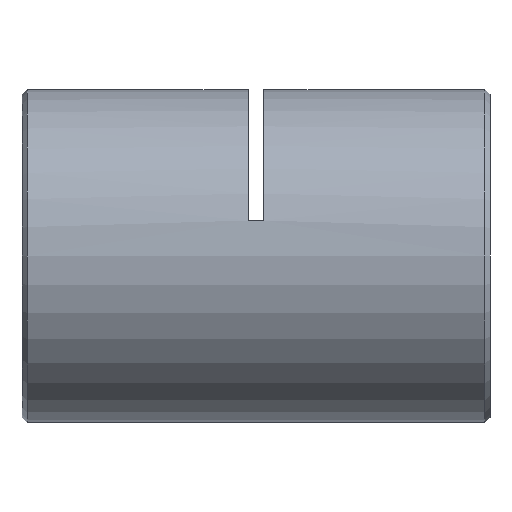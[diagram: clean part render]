
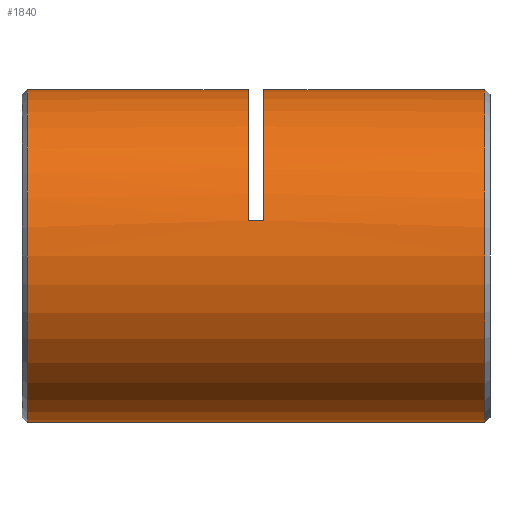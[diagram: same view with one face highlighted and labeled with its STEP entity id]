
A CAD part, left-side view. The second image highlights one B-rep face of the part: STEP entity #1840.
In plain terms, the highlighted cylindrical face has radius 16 mm (diameter 32 mm), a partial arc.
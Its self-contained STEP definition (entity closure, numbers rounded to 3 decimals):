
#55 = EDGE_CURVE ( 'NONE', #1464, #2213, #4526, .T. ) ;
#85 = EDGE_CURVE ( 'NONE', #5508, #2521, #954, .T. ) ;
#137 = EDGE_CURVE ( 'NONE', #1414, #5508, #4631, .T. ) ;
#142 = DIRECTION ( 'NONE',  ( 0., 1., 0. ) ) ;
#195 = ORIENTED_EDGE ( 'NONE', *, *, #5746, .F. ) ;
#244 = EDGE_CURVE ( 'NONE', #2521, #2698, #6218, .T. ) ;
#400 = AXIS2_PLACEMENT_3D ( 'NONE', #3306, #5277, #5409 ) ;
#414 = DIRECTION ( 'NONE',  ( 0., 0., -1. ) ) ;
#420 = DIRECTION ( 'NONE',  ( 0., 0., 1. ) ) ;
#718 = ORIENTED_EDGE ( 'NONE', *, *, #85, .T. ) ;
#814 = DIRECTION ( 'NONE',  ( 0., 0., 1. ) ) ;
#816 = VERTEX_POINT ( 'NONE', #4935 ) ;
#844 = DIRECTION ( 'NONE',  ( 0., 1., 0. ) ) ;
#954 = LINE ( 'NONE', #2432, #3387 ) ;
#1245 = ORIENTED_EDGE ( 'NONE', *, *, #137, .T. ) ;
#1414 = VERTEX_POINT ( 'NONE', #5267 ) ;
#1464 = VERTEX_POINT ( 'NONE', #3546 ) ;
#1637 = VECTOR ( 'NONE', #142, 1000. ) ;
#1671 = ORIENTED_EDGE ( 'NONE', *, *, #2981, .T. ) ;
#1680 = VECTOR ( 'NONE', #1816, 1000. ) ;
#1816 = DIRECTION ( 'NONE',  ( 0., 1., 0. ) ) ;
#1840 = ADVANCED_FACE ( 'NONE', ( #1880 ), #3855, .T. ) ;
#1880 = FACE_OUTER_BOUND ( 'NONE', #4722, .T. ) ;
#2125 = EDGE_CURVE ( 'NONE', #2213, #816, #2371, .T. ) ;
#2141 = CIRCLE ( 'NONE', #2664, 16. ) ;
#2213 = VERTEX_POINT ( 'NONE', #2787 ) ;
#2234 = VERTEX_POINT ( 'NONE', #3375 ) ;
#2371 = LINE ( 'NONE', #5315, #1680 ) ;
#2416 = CARTESIAN_POINT ( 'NONE',  ( 0., 22., 0. ) ) ;
#2432 = CARTESIAN_POINT ( 'NONE',  ( 0., 0., 16. ) ) ;
#2513 = AXIS2_PLACEMENT_3D ( 'NONE', #4476, #5940, #414 ) ;
#2521 = VERTEX_POINT ( 'NONE', #3563 ) ;
#2552 = DIRECTION ( 'NONE',  ( 0., 1., 0. ) ) ;
#2664 = AXIS2_PLACEMENT_3D ( 'NONE', #2416, #844, #420 ) ;
#2698 = VERTEX_POINT ( 'NONE', #3770 ) ;
#2763 = ORIENTED_EDGE ( 'NONE', *, *, #55, .T. ) ;
#2787 = CARTESIAN_POINT ( 'NONE',  ( 0., 0.75, 16. ) ) ;
#2803 = LINE ( 'NONE', #4846, #5516 ) ;
#2835 = CARTESIAN_POINT ( 'NONE',  ( 0., 23.5, 0. ) ) ;
#2981 = EDGE_CURVE ( 'NONE', #2234, #1414, #5168, .T. ) ;
#3065 = EDGE_CURVE ( 'NONE', #2234, #816, #2141, .T. ) ;
#3096 = ORIENTED_EDGE ( 'NONE', *, *, #2125, .T. ) ;
#3225 = AXIS2_PLACEMENT_3D ( 'NONE', #4750, #4868, #814 ) ;
#3306 = CARTESIAN_POINT ( 'NONE',  ( 0., 0.75, 0. ) ) ;
#3375 = CARTESIAN_POINT ( 'NONE',  ( -15.632, 22., 3.413 ) ) ;
#3387 = VECTOR ( 'NONE', #3905, 1000. ) ;
#3546 = CARTESIAN_POINT ( 'NONE',  ( 0., 0.75, -16. ) ) ;
#3563 = CARTESIAN_POINT ( 'NONE',  ( 0., 44.75, 16. ) ) ;
#3586 = CARTESIAN_POINT ( 'NONE',  ( 0., 23.5, 16. ) ) ;
#3770 = CARTESIAN_POINT ( 'NONE',  ( 0., 44.75, -16. ) ) ;
#3826 = DIRECTION ( 'NONE',  ( 0., 1., 0. ) ) ;
#3855 = CYLINDRICAL_SURFACE ( 'NONE', #3225, 16. ) ;
#3905 = DIRECTION ( 'NONE',  ( 0., 1., 0. ) ) ;
#4250 = CARTESIAN_POINT ( 'NONE',  ( -15.632, 22.75, 3.413 ) ) ;
#4411 = DIRECTION ( 'NONE',  ( 0., 0., 1. ) ) ;
#4476 = CARTESIAN_POINT ( 'NONE',  ( 0., 44.75, 0. ) ) ;
#4526 = CIRCLE ( 'NONE', #400, 16. ) ;
#4631 = CIRCLE ( 'NONE', #5460, 16. ) ;
#4722 = EDGE_LOOP ( 'NONE', ( #195, #2763, #3096, #5417, #1671, #1245, #718, #6290 ) ) ;
#4750 = CARTESIAN_POINT ( 'NONE',  ( 0., 0., 0. ) ) ;
#4846 = CARTESIAN_POINT ( 'NONE',  ( 0., 0., -16. ) ) ;
#4868 = DIRECTION ( 'NONE',  ( 0., 1., 0. ) ) ;
#4935 = CARTESIAN_POINT ( 'NONE',  ( 0., 22., 16. ) ) ;
#5168 = LINE ( 'NONE', #4250, #1637 ) ;
#5267 = CARTESIAN_POINT ( 'NONE',  ( -15.632, 23.5, 3.413 ) ) ;
#5277 = DIRECTION ( 'NONE',  ( 0., 1., 0. ) ) ;
#5315 = CARTESIAN_POINT ( 'NONE',  ( 0., 0., 16. ) ) ;
#5409 = DIRECTION ( 'NONE',  ( 0., 0., 1. ) ) ;
#5417 = ORIENTED_EDGE ( 'NONE', *, *, #3065, .F. ) ;
#5460 = AXIS2_PLACEMENT_3D ( 'NONE', #2835, #2552, #4411 ) ;
#5508 = VERTEX_POINT ( 'NONE', #3586 ) ;
#5516 = VECTOR ( 'NONE', #3826, 1000. ) ;
#5746 = EDGE_CURVE ( 'NONE', #1464, #2698, #2803, .T. ) ;
#5940 = DIRECTION ( 'NONE',  ( 0., -1., 0. ) ) ;
#6218 = CIRCLE ( 'NONE', #2513, 16. ) ;
#6290 = ORIENTED_EDGE ( 'NONE', *, *, #244, .T. ) ;
